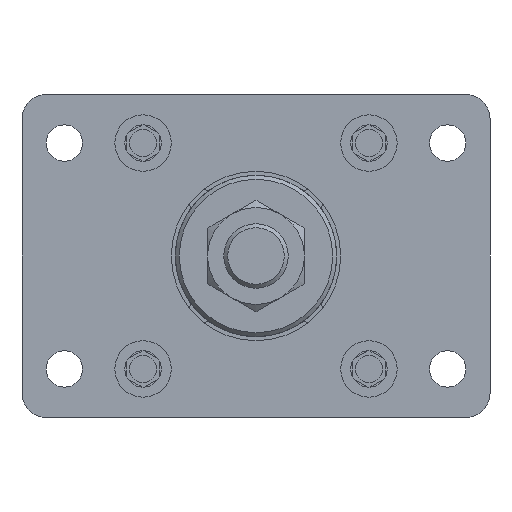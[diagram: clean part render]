
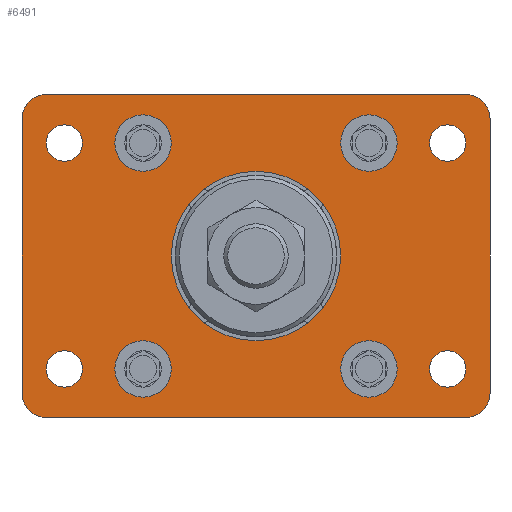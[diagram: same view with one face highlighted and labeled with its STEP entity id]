
A CAD part, front view. The second image highlights one B-rep face of the part: STEP entity #6491.
In plain terms, the highlighted planar face has unit normal (0, -1, 0).
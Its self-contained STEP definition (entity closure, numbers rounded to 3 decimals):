
#476=CIRCLE('',#7045,21.);
#478=CIRCLE('',#7048,4.5);
#480=CIRCLE('',#7051,4.5);
#482=CIRCLE('',#7054,4.5);
#484=CIRCLE('',#7057,4.5);
#486=CIRCLE('',#7061,7.);
#487=CIRCLE('',#7062,7.);
#488=CIRCLE('',#7063,7.);
#489=CIRCLE('',#7064,7.);
#490=CIRCLE('',#7065,6.);
#491=CIRCLE('',#7066,6.);
#492=CIRCLE('',#7067,6.);
#493=CIRCLE('',#7068,6.);
#1714=ORIENTED_EDGE('',*,*,#2403,.T.);
#1715=ORIENTED_EDGE('',*,*,#2404,.T.);
#1716=ORIENTED_EDGE('',*,*,#2405,.T.);
#1717=ORIENTED_EDGE('',*,*,#2406,.T.);
#1718=ORIENTED_EDGE('',*,*,#2397,.F.);
#1719=ORIENTED_EDGE('',*,*,#2395,.F.);
#1720=ORIENTED_EDGE('',*,*,#2393,.F.);
#1721=ORIENTED_EDGE('',*,*,#2391,.F.);
#1722=ORIENTED_EDGE('',*,*,#2389,.F.);
#1723=ORIENTED_EDGE('',*,*,#2383,.F.);
#1724=ORIENTED_EDGE('',*,*,#2407,.T.);
#1725=ORIENTED_EDGE('',*,*,#2377,.F.);
#1726=ORIENTED_EDGE('',*,*,#2408,.T.);
#1727=ORIENTED_EDGE('',*,*,#2401,.F.);
#1728=ORIENTED_EDGE('',*,*,#2409,.T.);
#1729=ORIENTED_EDGE('',*,*,#2387,.F.);
#1730=ORIENTED_EDGE('',*,*,#2410,.T.);
#2377=EDGE_CURVE('',#2840,#2841,#3208,.T.);
#2383=EDGE_CURVE('',#2846,#2847,#3214,.T.);
#2387=EDGE_CURVE('',#2850,#2851,#3218,.T.);
#2389=EDGE_CURVE('',#2852,#2852,#476,.F.);
#2391=EDGE_CURVE('',#2854,#2854,#478,.T.);
#2393=EDGE_CURVE('',#2856,#2856,#480,.T.);
#2395=EDGE_CURVE('',#2858,#2858,#482,.T.);
#2397=EDGE_CURVE('',#2860,#2860,#484,.T.);
#2401=EDGE_CURVE('',#2864,#2865,#3222,.T.);
#2403=EDGE_CURVE('',#2866,#2866,#486,.T.);
#2404=EDGE_CURVE('',#2867,#2867,#487,.T.);
#2405=EDGE_CURVE('',#2868,#2868,#488,.T.);
#2406=EDGE_CURVE('',#2869,#2869,#489,.T.);
#2407=EDGE_CURVE('',#2846,#2841,#490,.F.);
#2408=EDGE_CURVE('',#2840,#2865,#491,.F.);
#2409=EDGE_CURVE('',#2864,#2851,#492,.F.);
#2410=EDGE_CURVE('',#2850,#2847,#493,.F.);
#2840=VERTEX_POINT('',#9944);
#2841=VERTEX_POINT('',#9945);
#2846=VERTEX_POINT('',#9956);
#2847=VERTEX_POINT('',#9958);
#2850=VERTEX_POINT('',#9965);
#2851=VERTEX_POINT('',#9967);
#2852=VERTEX_POINT('',#9971);
#2854=VERTEX_POINT('',#9976);
#2856=VERTEX_POINT('',#9981);
#2858=VERTEX_POINT('',#9986);
#2860=VERTEX_POINT('',#9991);
#2864=VERTEX_POINT('',#9999);
#2865=VERTEX_POINT('',#10001);
#2866=VERTEX_POINT('',#10005);
#2867=VERTEX_POINT('',#10007);
#2868=VERTEX_POINT('',#10009);
#2869=VERTEX_POINT('',#10011);
#3208=LINE('',#9943,#3550);
#3214=LINE('',#9957,#3556);
#3218=LINE('',#9966,#3560);
#3222=LINE('',#10000,#3564);
#3550=VECTOR('',#8435,1000.);
#3556=VECTOR('',#8443,1000.);
#3560=VECTOR('',#8449,1000.);
#3564=VECTOR('',#8485,1000.);
#3928=EDGE_LOOP('',(#1714));
#3929=EDGE_LOOP('',(#1715));
#3930=EDGE_LOOP('',(#1716));
#3931=EDGE_LOOP('',(#1717));
#3932=EDGE_LOOP('',(#1718));
#3933=EDGE_LOOP('',(#1719));
#3934=EDGE_LOOP('',(#1720));
#3935=EDGE_LOOP('',(#1721));
#3936=EDGE_LOOP('',(#1722));
#3937=EDGE_LOOP('',(#1723,#1724,#1725,#1726,#1727,#1728,#1729,#1730));
#4338=FACE_BOUND('',#3928,.T.);
#4339=FACE_BOUND('',#3929,.T.);
#4340=FACE_BOUND('',#3930,.T.);
#4341=FACE_BOUND('',#3931,.T.);
#4342=FACE_BOUND('',#3932,.T.);
#4343=FACE_BOUND('',#3933,.T.);
#4344=FACE_BOUND('',#3934,.T.);
#4345=FACE_BOUND('',#3935,.T.);
#4346=FACE_BOUND('',#3936,.T.);
#4347=FACE_BOUND('',#3937,.T.);
#4523=PLANE('',#7060);
#6491=ADVANCED_FACE('',(#4338,#4339,#4340,#4341,#4342,#4343,#4344,#4345,
#4346,#4347),#4523,.F.);
#7045=AXIS2_PLACEMENT_3D('',#9970,#8453,#8454);
#7048=AXIS2_PLACEMENT_3D('',#9975,#8459,#8460);
#7051=AXIS2_PLACEMENT_3D('',#9980,#8465,#8466);
#7054=AXIS2_PLACEMENT_3D('',#9985,#8471,#8472);
#7057=AXIS2_PLACEMENT_3D('',#9990,#8477,#8478);
#7060=AXIS2_PLACEMENT_3D('',#10003,#8487,#8488);
#7061=AXIS2_PLACEMENT_3D('',#10004,#8489,#8490);
#7062=AXIS2_PLACEMENT_3D('',#10006,#8491,#8492);
#7063=AXIS2_PLACEMENT_3D('',#10008,#8493,#8494);
#7064=AXIS2_PLACEMENT_3D('',#10010,#8495,#8496);
#7065=AXIS2_PLACEMENT_3D('',#10012,#8497,#8498);
#7066=AXIS2_PLACEMENT_3D('',#10013,#8499,#8500);
#7067=AXIS2_PLACEMENT_3D('',#10014,#8501,#8502);
#7068=AXIS2_PLACEMENT_3D('',#10015,#8503,#8504);
#8435=DIRECTION('',(-1.,0.,0.));
#8443=DIRECTION('',(0.,0.,1.));
#8449=DIRECTION('',(1.,0.,0.));
#8453=DIRECTION('',(0.,1.,0.));
#8454=DIRECTION('',(0.,0.,1.));
#8459=DIRECTION('',(0.,-1.,0.));
#8460=DIRECTION('',(1.,0.,0.));
#8465=DIRECTION('',(0.,-1.,0.));
#8466=DIRECTION('',(1.,0.,0.));
#8471=DIRECTION('',(0.,-1.,0.));
#8472=DIRECTION('',(1.,0.,0.));
#8477=DIRECTION('',(0.,-1.,0.));
#8478=DIRECTION('',(1.,0.,0.));
#8485=DIRECTION('',(0.,0.,-1.));
#8487=DIRECTION('',(0.,1.,0.));
#8488=DIRECTION('',(0.,0.,1.));
#8489=DIRECTION('',(0.,1.,0.));
#8490=DIRECTION('',(0.,0.,-1.));
#8491=DIRECTION('',(0.,1.,0.));
#8492=DIRECTION('',(0.,0.,-1.));
#8493=DIRECTION('',(0.,1.,0.));
#8494=DIRECTION('',(0.,0.,-1.));
#8495=DIRECTION('',(0.,1.,0.));
#8496=DIRECTION('',(0.,0.,-1.));
#8497=DIRECTION('',(0.,1.,0.));
#8498=DIRECTION('',(0.,0.,1.));
#8499=DIRECTION('',(0.,1.,0.));
#8500=DIRECTION('',(0.,0.,1.));
#8501=DIRECTION('',(0.,1.,0.));
#8502=DIRECTION('',(0.,0.,1.));
#8503=DIRECTION('',(0.,1.,0.));
#8504=DIRECTION('',(0.,0.,1.));
#9943=CARTESIAN_POINT('',(58.,-12.,-40.));
#9944=CARTESIAN_POINT('',(52.,-12.,-40.));
#9945=CARTESIAN_POINT('',(-52.,-12.,-40.));
#9956=CARTESIAN_POINT('',(-58.,-12.,-34.));
#9957=CARTESIAN_POINT('',(-58.,-12.,-40.));
#9958=CARTESIAN_POINT('',(-58.,-12.,34.));
#9965=CARTESIAN_POINT('',(-52.,-12.,40.));
#9966=CARTESIAN_POINT('',(-58.,-12.,40.));
#9967=CARTESIAN_POINT('',(52.,-12.,40.));
#9970=CARTESIAN_POINT('',(0.,-12.,0.));
#9971=CARTESIAN_POINT('',(0.,-12.,21.));
#9975=CARTESIAN_POINT('',(-47.5,-12.,28.));
#9976=CARTESIAN_POINT('',(-43.,-12.,28.));
#9980=CARTESIAN_POINT('',(47.5,-12.,-28.));
#9981=CARTESIAN_POINT('',(52.,-12.,-28.));
#9985=CARTESIAN_POINT('',(-47.5,-12.,-28.));
#9986=CARTESIAN_POINT('',(-43.,-12.,-28.));
#9990=CARTESIAN_POINT('',(47.5,-12.,28.));
#9991=CARTESIAN_POINT('',(52.,-12.,28.));
#9999=CARTESIAN_POINT('',(58.,-12.,34.));
#10000=CARTESIAN_POINT('',(58.,-12.,40.));
#10001=CARTESIAN_POINT('',(58.,-12.,-34.));
#10003=CARTESIAN_POINT('',(0.,-12.,0.));
#10004=CARTESIAN_POINT('',(-28.,-12.,-28.));
#10005=CARTESIAN_POINT('',(-28.,-12.,-35.));
#10006=CARTESIAN_POINT('',(28.,-12.,-28.));
#10007=CARTESIAN_POINT('',(28.,-12.,-35.));
#10008=CARTESIAN_POINT('',(28.,-12.,28.));
#10009=CARTESIAN_POINT('',(28.,-12.,21.));
#10010=CARTESIAN_POINT('',(-28.,-12.,28.));
#10011=CARTESIAN_POINT('',(-28.,-12.,21.));
#10012=CARTESIAN_POINT('',(-52.,-12.,-34.));
#10013=CARTESIAN_POINT('',(52.,-12.,-34.));
#10014=CARTESIAN_POINT('',(52.,-12.,34.));
#10015=CARTESIAN_POINT('',(-52.,-12.,34.));
